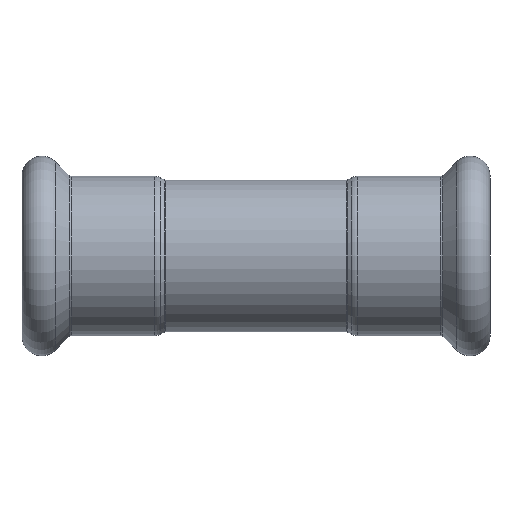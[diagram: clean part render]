
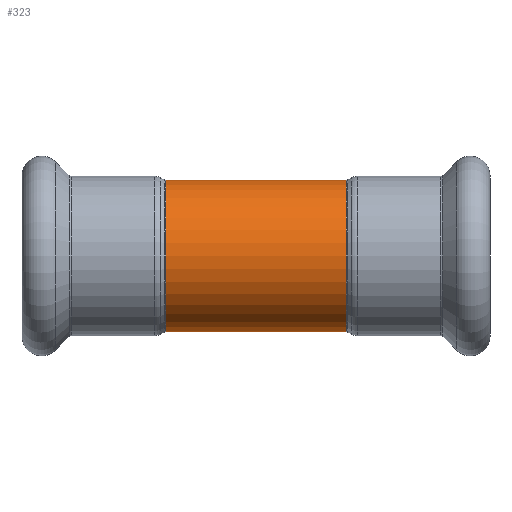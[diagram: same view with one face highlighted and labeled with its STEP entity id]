
A CAD part, front view. The second image highlights one B-rep face of the part: STEP entity #323.
In plain terms, the highlighted cylindrical face has radius 12 mm (diameter 24 mm), a partial arc.
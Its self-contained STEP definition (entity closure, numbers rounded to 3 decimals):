
#173 = CARTESIAN_POINT ( 'NONE',  ( 27.146, 0., 12. ) ) ;
#258 = CIRCLE ( 'NONE', #2400, 12. ) ;
#323 = ADVANCED_FACE ( 'NONE', ( #2509 ), #1672, .T. ) ;
#377 = ORIENTED_EDGE ( 'NONE', *, *, #3909, .T. ) ;
#486 = DIRECTION ( 'NONE',  ( 0., 0., 1. ) ) ;
#565 = DIRECTION ( 'NONE',  ( -1., 0., 0. ) ) ;
#631 = VERTEX_POINT ( 'NONE', #1585 ) ;
#810 = CIRCLE ( 'NONE', #2437, 12. ) ;
#832 = CARTESIAN_POINT ( 'NONE',  ( -14.248, 0., 12. ) ) ;
#1070 = AXIS2_PLACEMENT_3D ( 'NONE', #2022, #2692, #2799 ) ;
#1079 = ORIENTED_EDGE ( 'NONE', *, *, #3691, .F. ) ;
#1409 = LINE ( 'NONE', #173, #2407 ) ;
#1548 = ORIENTED_EDGE ( 'NONE', *, *, #2045, .F. ) ;
#1585 = CARTESIAN_POINT ( 'NONE',  ( -14.248, 0., -12. ) ) ;
#1672 = CYLINDRICAL_SURFACE ( 'NONE', #1070, 12. ) ;
#2022 = CARTESIAN_POINT ( 'NONE',  ( 27.146, 0., 0. ) ) ;
#2045 = EDGE_CURVE ( 'NONE', #631, #3473, #258, .T. ) ;
#2165 = DIRECTION ( 'NONE',  ( -1., 0., 0. ) ) ;
#2217 = EDGE_LOOP ( 'NONE', ( #1079, #3182, #377, #1548 ) ) ;
#2400 = AXIS2_PLACEMENT_3D ( 'NONE', #2585, #565, #4225 ) ;
#2407 = VECTOR ( 'NONE', #2165, 1000. ) ;
#2437 = AXIS2_PLACEMENT_3D ( 'NONE', #3119, #4105, #486 ) ;
#2462 = LINE ( 'NONE', #3041, #3126 ) ;
#2509 = FACE_OUTER_BOUND ( 'NONE', #2217, .T. ) ;
#2585 = CARTESIAN_POINT ( 'NONE',  ( -14.248, 0., 0. ) ) ;
#2692 = DIRECTION ( 'NONE',  ( -1., 0., 0. ) ) ;
#2762 = DIRECTION ( 'NONE',  ( -1., 0., 0. ) ) ;
#2799 = DIRECTION ( 'NONE',  ( 0., 0., 1. ) ) ;
#3041 = CARTESIAN_POINT ( 'NONE',  ( 27.146, 0., -12. ) ) ;
#3119 = CARTESIAN_POINT ( 'NONE',  ( 14.248, 0., 0. ) ) ;
#3126 = VECTOR ( 'NONE', #2762, 1000. ) ;
#3182 = ORIENTED_EDGE ( 'NONE', *, *, #3567, .T. ) ;
#3370 = VERTEX_POINT ( 'NONE', #4163 ) ;
#3473 = VERTEX_POINT ( 'NONE', #832 ) ;
#3567 = EDGE_CURVE ( 'NONE', #4116, #3370, #810, .T. ) ;
#3691 = EDGE_CURVE ( 'NONE', #4116, #631, #2462, .T. ) ;
#3909 = EDGE_CURVE ( 'NONE', #3370, #3473, #1409, .T. ) ;
#4105 = DIRECTION ( 'NONE',  ( -1., 0., 0. ) ) ;
#4116 = VERTEX_POINT ( 'NONE', #4209 ) ;
#4163 = CARTESIAN_POINT ( 'NONE',  ( 14.248, 0., 12. ) ) ;
#4209 = CARTESIAN_POINT ( 'NONE',  ( 14.248, 0., -12. ) ) ;
#4225 = DIRECTION ( 'NONE',  ( 0., 0., 1. ) ) ;
